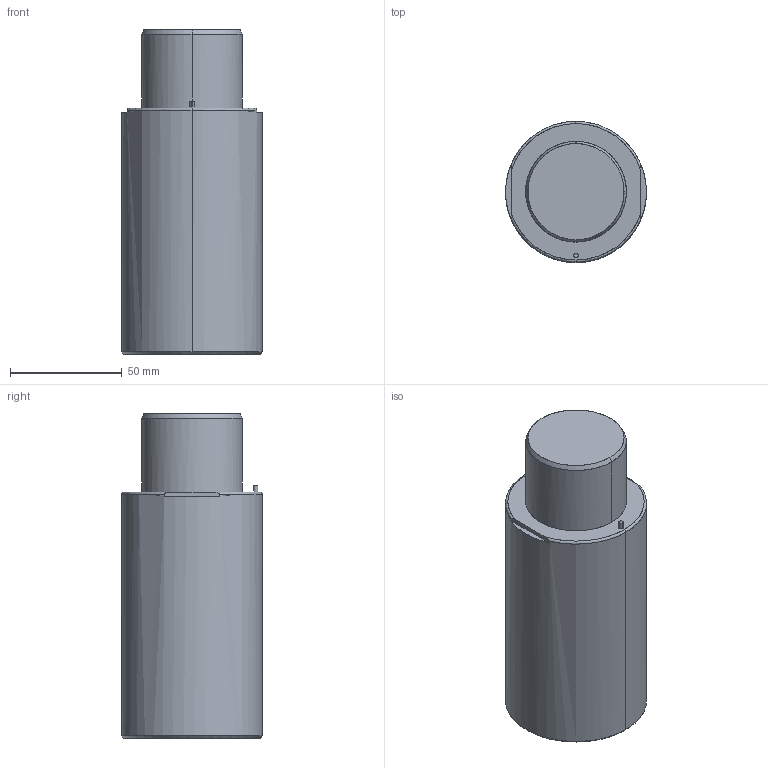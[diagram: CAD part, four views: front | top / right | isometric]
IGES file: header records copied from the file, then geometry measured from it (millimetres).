
Global section: file name: E:\UnigraphicsGraphicData\MISUMI_PRESS-PARTS\IGES\3d_gsx63-32_03978_r00.igs; native system: NX V5.0; preprocessor: UGS NX IGES V5.0; author: MISUMI; date: 20110105.160830; units: millimetre
Bounding box: 63 x 63 x 145 mm (x, y, z)
Surface area: 34365.3 mm2 (no closed solid volume)
Topology: 0 solids, 0 shells, 59 faces, 428 edges, 420 vertices
Faces by surface type: bspline 59
